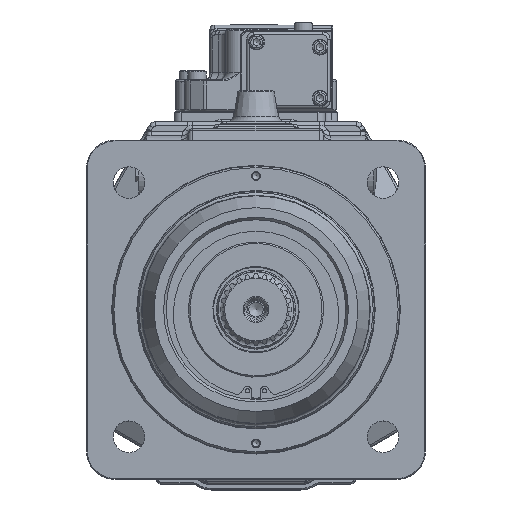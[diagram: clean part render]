
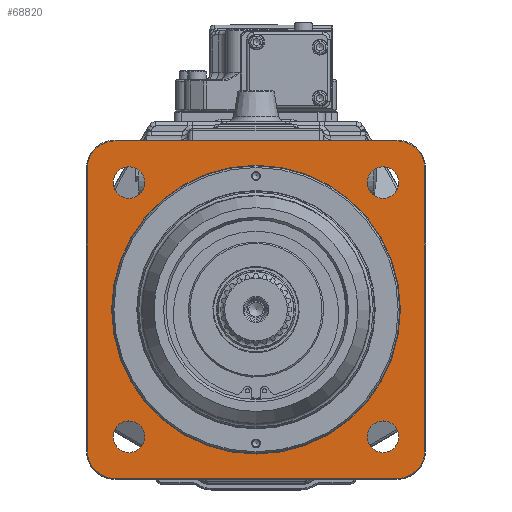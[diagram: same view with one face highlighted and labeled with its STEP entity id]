
A CAD part, top view. The second image highlights one B-rep face of the part: STEP entity #68820.
In plain terms, the highlighted planar face has unit normal (0, 0, 1).
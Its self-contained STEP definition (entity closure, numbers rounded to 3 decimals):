
#5077=LINE('',#118487,#9964);
#5078=LINE('',#118491,#9965);
#5079=LINE('',#118495,#9966);
#5080=LINE('',#118498,#9967);
#9964=VECTOR('',#87178,10.);
#9965=VECTOR('',#87181,10.);
#9966=VECTOR('',#87184,10.);
#9967=VECTOR('',#87187,10.);
#12246=FACE_BOUND('',#21655,.T.);
#12247=FACE_BOUND('',#21656,.T.);
#12248=FACE_BOUND('',#21657,.T.);
#12249=FACE_BOUND('',#21658,.T.);
#12250=FACE_BOUND('',#21659,.T.);
#13367=PLANE('',#74063);
#17519=FACE_OUTER_BOUND('',#21654,.T.);
#21654=EDGE_LOOP('',(#52720,#52721,#52722,#52723,#52724,#52725,#52726,#52727));
#21655=EDGE_LOOP('',(#52728));
#21656=EDGE_LOOP('',(#52729));
#21657=EDGE_LOOP('',(#52730));
#21658=EDGE_LOOP('',(#52731));
#21659=EDGE_LOOP('',(#52732));
#25044=CIRCLE('',#73937,11.);
#25046=CIRCLE('',#73940,11.);
#25048=CIRCLE('',#73943,11.);
#25050=CIRCLE('',#73946,11.);
#25118=CIRCLE('',#74062,100.4);
#25119=CIRCLE('',#74064,19.423);
#25120=CIRCLE('',#74065,19.423);
#25121=CIRCLE('',#74066,19.423);
#25122=CIRCLE('',#74067,19.423);
#30027=VERTEX_POINT('',#117794);
#30029=VERTEX_POINT('',#117800);
#30031=VERTEX_POINT('',#117806);
#30033=VERTEX_POINT('',#117812);
#30144=VERTEX_POINT('',#118479);
#30145=VERTEX_POINT('',#118483);
#30146=VERTEX_POINT('',#118484);
#30147=VERTEX_POINT('',#118486);
#30148=VERTEX_POINT('',#118488);
#30149=VERTEX_POINT('',#118490);
#30150=VERTEX_POINT('',#118492);
#30151=VERTEX_POINT('',#118494);
#30152=VERTEX_POINT('',#118496);
#37937=EDGE_CURVE('',#30027,#30027,#25044,.T.);
#37940=EDGE_CURVE('',#30029,#30029,#25046,.T.);
#37943=EDGE_CURVE('',#30031,#30031,#25048,.T.);
#37946=EDGE_CURVE('',#30033,#30033,#25050,.T.);
#38095=EDGE_CURVE('',#30144,#30144,#25118,.T.);
#38096=EDGE_CURVE('',#30145,#30146,#25119,.T.);
#38097=EDGE_CURVE('',#30147,#30145,#5077,.T.);
#38098=EDGE_CURVE('',#30148,#30147,#25120,.T.);
#38099=EDGE_CURVE('',#30149,#30148,#5078,.T.);
#38100=EDGE_CURVE('',#30150,#30149,#25121,.T.);
#38101=EDGE_CURVE('',#30151,#30150,#5079,.T.);
#38102=EDGE_CURVE('',#30152,#30151,#25122,.T.);
#38103=EDGE_CURVE('',#30146,#30152,#5080,.T.);
#52720=ORIENTED_EDGE('',*,*,#38096,.F.);
#52721=ORIENTED_EDGE('',*,*,#38097,.F.);
#52722=ORIENTED_EDGE('',*,*,#38098,.F.);
#52723=ORIENTED_EDGE('',*,*,#38099,.F.);
#52724=ORIENTED_EDGE('',*,*,#38100,.F.);
#52725=ORIENTED_EDGE('',*,*,#38101,.F.);
#52726=ORIENTED_EDGE('',*,*,#38102,.F.);
#52727=ORIENTED_EDGE('',*,*,#38103,.F.);
#52728=ORIENTED_EDGE('',*,*,#37937,.T.);
#52729=ORIENTED_EDGE('',*,*,#37940,.T.);
#52730=ORIENTED_EDGE('',*,*,#37943,.T.);
#52731=ORIENTED_EDGE('',*,*,#37946,.T.);
#52732=ORIENTED_EDGE('',*,*,#38095,.F.);
#68820=ADVANCED_FACE('',(#17519,#12246,#12247,#12248,#12249,#12250),#13367,
 .F.);
#73937=AXIS2_PLACEMENT_3D('',#117795,#86870,#86871);
#73940=AXIS2_PLACEMENT_3D('',#117801,#86877,#86878);
#73943=AXIS2_PLACEMENT_3D('',#117807,#86884,#86885);
#73946=AXIS2_PLACEMENT_3D('',#117813,#86891,#86892);
#74062=AXIS2_PLACEMENT_3D('',#118481,#87172,#87173);
#74063=AXIS2_PLACEMENT_3D('',#118482,#87174,#87175);
#74064=AXIS2_PLACEMENT_3D('',#118485,#87176,#87177);
#74065=AXIS2_PLACEMENT_3D('',#118489,#87179,#87180);
#74066=AXIS2_PLACEMENT_3D('',#118493,#87182,#87183);
#74067=AXIS2_PLACEMENT_3D('',#118497,#87185,#87186);
#86870=DIRECTION('center_axis',(0.,0.,-1.));
#86871=DIRECTION('ref_axis',(0.,1.,0.));
#86877=DIRECTION('center_axis',(0.,0.,-1.));
#86878=DIRECTION('ref_axis',(-1.,0.,0.));
#86884=DIRECTION('center_axis',(0.,0.,-1.));
#86885=DIRECTION('ref_axis',(0.,-1.,0.));
#86891=DIRECTION('center_axis',(0.,0.,-1.));
#86892=DIRECTION('ref_axis',(1.,0.,0.));
#87172=DIRECTION('center_axis',(0.,0.,1.));
#87173=DIRECTION('ref_axis',(0.,1.,0.));
#87174=DIRECTION('center_axis',(0.,0.,-1.));
#87175=DIRECTION('ref_axis',(0.,1.,0.));
#87176=DIRECTION('center_axis',(0.,0.,-1.));
#87177=DIRECTION('ref_axis',(0.,1.,0.));
#87178=DIRECTION('',(0.,1.,0.));
#87179=DIRECTION('center_axis',(0.,0.,-1.));
#87180=DIRECTION('ref_axis',(-1.,0.,0.));
#87181=DIRECTION('',(-1.,0.,0.));
#87182=DIRECTION('center_axis',(0.,0.,-1.));
#87183=DIRECTION('ref_axis',(1.,0.,0.));
#87184=DIRECTION('',(0.,-1.,0.));
#87185=DIRECTION('center_axis',(0.,0.,-1.));
#87186=DIRECTION('ref_axis',(0.,1.,0.));
#87187=DIRECTION('',(1.,0.,0.));
#117794=CARTESIAN_POINT('',(-9.475,31.531,183.75));
#117795=CARTESIAN_POINT('Origin',(-9.475,42.531,183.75));
#117800=CARTESIAN_POINT('',(1.525,-134.246,183.75));
#117801=CARTESIAN_POINT('Origin',(-9.475,-134.246,183.75));
#117806=CARTESIAN_POINT('',(167.302,-123.246,183.75));
#117807=CARTESIAN_POINT('Origin',(167.302,-134.246,183.75));
#117812=CARTESIAN_POINT('',(156.302,42.531,183.75));
#117813=CARTESIAN_POINT('Origin',(167.302,42.531,183.75));
#118479=CARTESIAN_POINT('',(78.913,54.542,183.75));
#118481=CARTESIAN_POINT('Origin',(78.913,-45.858,183.75));
#118482=CARTESIAN_POINT('Origin',(78.913,120.91,183.75));
#118483=CARTESIAN_POINT('',(-38.509,52.142,183.75));
#118484=CARTESIAN_POINT('',(-19.087,71.565,183.75));
#118485=CARTESIAN_POINT('Origin',(-19.087,52.142,183.75));
#118486=CARTESIAN_POINT('',(-38.509,-143.858,183.75));
#118487=CARTESIAN_POINT('',(-38.509,15.116,183.75));
#118488=CARTESIAN_POINT('',(-19.087,-163.28,183.75));
#118489=CARTESIAN_POINT('Origin',(-19.087,-143.858,183.75));
#118490=CARTESIAN_POINT('',(176.913,-163.28,183.75));
#118491=CARTESIAN_POINT('',(106.378,-163.28,183.75));
#118492=CARTESIAN_POINT('',(196.336,-143.858,183.75));
#118493=CARTESIAN_POINT('Origin',(176.913,-143.858,183.75));
#118494=CARTESIAN_POINT('',(196.336,52.142,183.75));
#118495=CARTESIAN_POINT('',(196.336,15.116,183.75));
#118496=CARTESIAN_POINT('',(176.913,71.565,183.75));
#118497=CARTESIAN_POINT('Origin',(176.913,52.142,183.75));
#118498=CARTESIAN_POINT('',(130.878,71.565,183.75));
